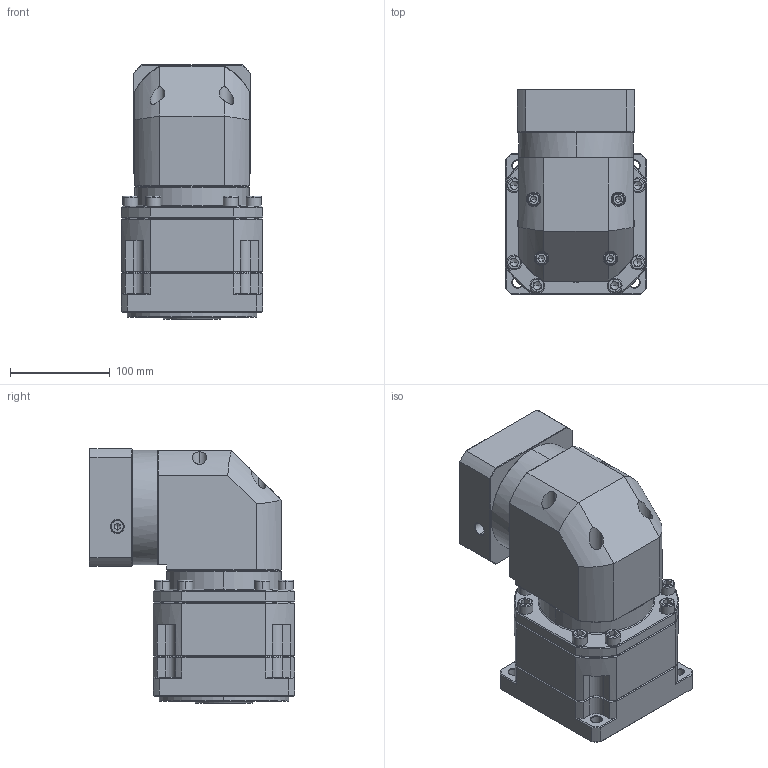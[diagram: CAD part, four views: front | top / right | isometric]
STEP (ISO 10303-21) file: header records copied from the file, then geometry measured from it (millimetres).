
FILE_DESCRIPTION (( 'STEP AP214' ), '1' );
FILE_NAME ('ZBR142A-K35-L2-P2-22-95-115-M8.step', '2023-09-02T08:13:05', ( '' ), ( '' ), 'SwSTEP 2.0', 'SolidWorks 2016', '' );
FILE_SCHEMA (( 'AUTOMOTIVE_DESIGN' ));
Length unit declared in the file: millimetre
Products named in the file (1): ZBR142A-K35-L2-P2-22-95-115-M8
Bounding box: 142 x 205.9 x 255.2 mm (x, y, z)
Volume: 4235495.9 mm3; surface area: 311072.6 mm2
Topology: 6 solids, 6 shells, 2531 faces, 6585 edges, 4179 vertices
Faces by surface type: plane 1225, cylinder 465, bspline 404, cone 393, torus 44
Entity records: 130491 total; most frequent: CARTESIAN_POINT 43849, ORIENTED_EDGE 13066, DIRECTION 10731, EDGE_CURVE 6533, VECTOR 4215, LINE 4215, VERTEX_POINT 4179, AXIS2_PLACEMENT_3D 3258
